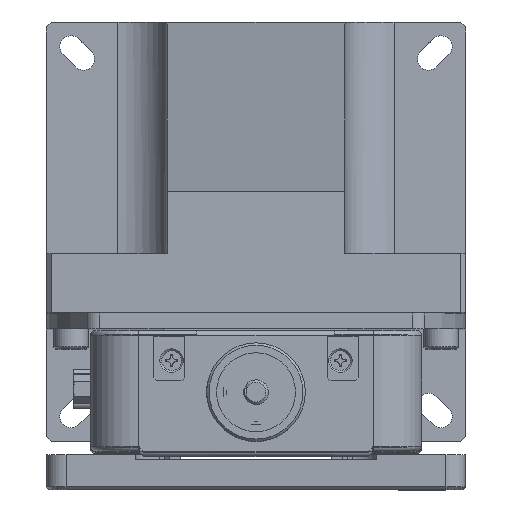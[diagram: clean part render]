
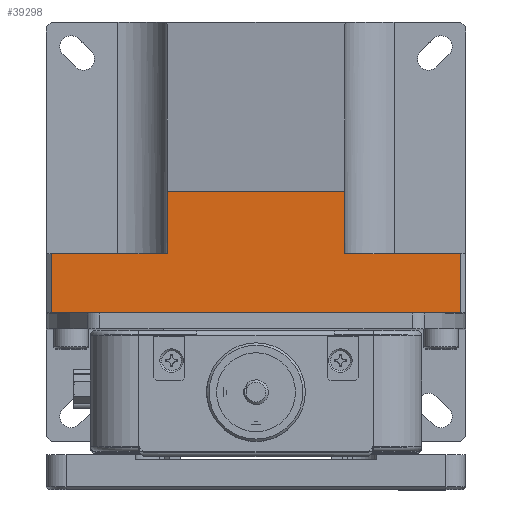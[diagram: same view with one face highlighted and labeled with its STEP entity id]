
A CAD part, top view. The second image highlights one B-rep face of the part: STEP entity #39298.
In plain terms, the highlighted planar face has unit normal (0, 0, 1).
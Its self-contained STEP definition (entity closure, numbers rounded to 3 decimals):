
#3876=PLANE('',#41771);
#5408=FACE_OUTER_BOUND('',#7807,.T.);
#7807=EDGE_LOOP('',(#28392,#28393,#28394,#28395,#28396,#28397,#28398,#28399));
#11169=LINE('',#56869,#14599);
#11174=LINE('',#56878,#14604);
#11183=LINE('',#56918,#14613);
#11227=LINE('',#57016,#14657);
#11228=LINE('',#57018,#14658);
#11229=LINE('',#57019,#14659);
#11230=LINE('',#57021,#14660);
#11231=LINE('',#57022,#14661);
#14599=VECTOR('',#45646,12.7);
#14604=VECTOR('',#45653,23.5);
#14613=VECTOR('',#45688,12.7);
#14657=VECTOR('',#45764,12.);
#14658=VECTOR('',#45767,23.5);
#14659=VECTOR('',#45768,36.);
#14660=VECTOR('',#45769,12.);
#14661=VECTOR('',#45770,83.);
#19454=VERTEX_POINT('',#56866);
#19455=VERTEX_POINT('',#56868);
#19458=VERTEX_POINT('',#56876);
#19475=VERTEX_POINT('',#56915);
#19476=VERTEX_POINT('',#56917);
#19513=VERTEX_POINT('',#57012);
#19514=VERTEX_POINT('',#57014);
#19515=VERTEX_POINT('',#57020);
#23079=EDGE_CURVE('',#19455,#19454,#11169,.T.);
#23084=EDGE_CURVE('',#19458,#19454,#11174,.T.);
#23103=EDGE_CURVE('',#19476,#19475,#11183,.T.);
#23153=EDGE_CURVE('',#19514,#19513,#11227,.T.);
#23154=EDGE_CURVE('',#19476,#19514,#11228,.T.);
#23155=EDGE_CURVE('',#19455,#19475,#11229,.T.);
#23156=EDGE_CURVE('',#19515,#19458,#11230,.T.);
#23157=EDGE_CURVE('',#19513,#19515,#11231,.T.);
#28392=ORIENTED_EDGE('',*,*,#23153,.F.);
#28393=ORIENTED_EDGE('',*,*,#23154,.F.);
#28394=ORIENTED_EDGE('',*,*,#23103,.T.);
#28395=ORIENTED_EDGE('',*,*,#23155,.F.);
#28396=ORIENTED_EDGE('',*,*,#23079,.T.);
#28397=ORIENTED_EDGE('',*,*,#23084,.F.);
#28398=ORIENTED_EDGE('',*,*,#23156,.F.);
#28399=ORIENTED_EDGE('',*,*,#23157,.F.);
#39298=ADVANCED_FACE('',(#5408),#3876,.T.);
#41771=AXIS2_PLACEMENT_3D('',#57017,#45765,#45766);
#45646=DIRECTION('',(0.,-1.,0.));
#45653=DIRECTION('',(1.,0.,0.));
#45688=DIRECTION('',(0.,1.,0.));
#45764=DIRECTION('',(0.,-1.,0.));
#45765=DIRECTION('center_axis',(0.,0.,
1.));
#45766=DIRECTION('ref_axis',(1.,0.,0.));
#45767=DIRECTION('',(1.,0.,0.));
#45768=DIRECTION('',(1.,0.,0.));
#45769=DIRECTION('',(0.,1.,0.));
#45770=DIRECTION('',(-1.,0.,0.));
#56866=CARTESIAN_POINT('',(-18.,37.7,193.));
#56868=CARTESIAN_POINT('',(-18.,50.4,193.));
#56869=CARTESIAN_POINT('',(-18.,50.4,193.));
#56876=CARTESIAN_POINT('',(-41.5,37.7,193.));
#56878=CARTESIAN_POINT('',(42.5,37.7,193.));
#56915=CARTESIAN_POINT('',(18.,50.4,193.));
#56917=CARTESIAN_POINT('',(18.,37.7,193.));
#56918=CARTESIAN_POINT('',(18.,50.4,193.));
#57012=CARTESIAN_POINT('',(41.5,25.7,193.));
#57014=CARTESIAN_POINT('',(41.5,37.7,193.));
#57016=CARTESIAN_POINT('',(41.5,58.35,193.));
#57017=CARTESIAN_POINT('Origin',(0.,31.7,193.));
#57018=CARTESIAN_POINT('',(42.5,37.7,193.));
#57019=CARTESIAN_POINT('',(0.,50.4,193.));
#57020=CARTESIAN_POINT('',(-41.5,25.7,193.));
#57021=CARTESIAN_POINT('',(-41.5,15.85,193.));
#57022=CARTESIAN_POINT('',(-42.5,25.7,193.));
